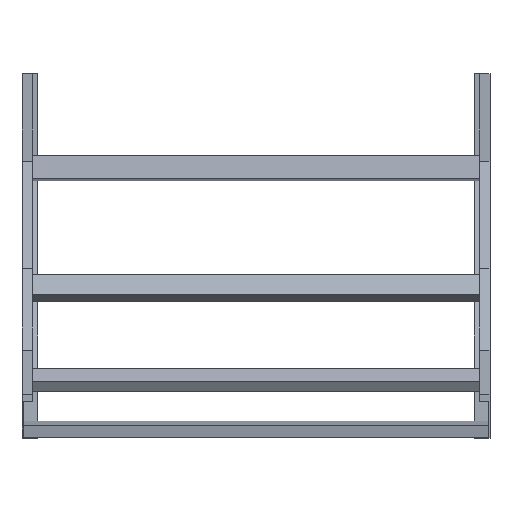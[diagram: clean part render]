
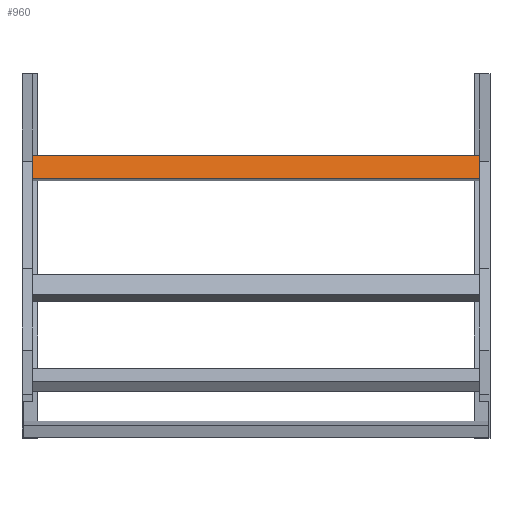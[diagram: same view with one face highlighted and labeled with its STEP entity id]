
A CAD part, top view. The second image highlights one B-rep face of the part: STEP entity #960.
In plain terms, the highlighted planar face has unit normal (0, 0.195, 0.981) as drawn and (0, 1, 0) by its records, which use the part's own axes.
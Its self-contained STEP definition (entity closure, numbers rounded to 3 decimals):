
#108 = CARTESIAN_POINT ( 'NONE',  ( -398., 20., 20.25 ) ) ;
#182 = CARTESIAN_POINT ( 'NONE',  ( 398., 20., -20.25 ) ) ;
#199 = DIRECTION ( 'NONE',  ( 0., 0., 1. ) ) ;
#328 = VECTOR ( 'NONE', #199, 1000. ) ;
#348 = EDGE_CURVE ( 'NONE', #753, #1398, #1622, .T. ) ;
#357 = VECTOR ( 'NONE', #496, 1000. ) ;
#362 = LINE ( 'NONE', #108, #1631 ) ;
#379 = CARTESIAN_POINT ( 'NONE',  ( 398., 20., 20.25 ) ) ;
#458 = CARTESIAN_POINT ( 'NONE',  ( 398., 20., 20.25 ) ) ;
#462 = VERTEX_POINT ( 'NONE', #458 ) ;
#496 = DIRECTION ( 'NONE',  ( -1., 0., 0. ) ) ;
#506 = EDGE_CURVE ( 'NONE', #462, #1467, #1413, .T. ) ;
#534 = FACE_OUTER_BOUND ( 'NONE', #1299, .T. ) ;
#537 = ORIENTED_EDGE ( 'NONE', *, *, #506, .F. ) ;
#544 = DIRECTION ( 'NONE',  ( 0., 0., -1. ) ) ;
#563 = EDGE_CURVE ( 'NONE', #753, #462, #1520, .T. ) ;
#615 = DIRECTION ( 'NONE',  ( -1., 0., 0. ) ) ;
#744 = CARTESIAN_POINT ( 'NONE',  ( -398., 20., -20.25 ) ) ;
#753 = VERTEX_POINT ( 'NONE', #1159 ) ;
#952 = AXIS2_PLACEMENT_3D ( 'NONE', #1580, #1747, #544 ) ;
#960 = ADVANCED_FACE ( 'NONE', ( #534 ), #1157, .F. ) ;
#987 = DIRECTION ( 'NONE',  ( 0., 0., 1. ) ) ;
#1113 = ORIENTED_EDGE ( 'NONE', *, *, #563, .F. ) ;
#1157 = PLANE ( 'NONE',  #952 ) ;
#1159 = CARTESIAN_POINT ( 'NONE',  ( 398., 20., -20.25 ) ) ;
#1174 = VECTOR ( 'NONE', #615, 1000. ) ;
#1184 = ORIENTED_EDGE ( 'NONE', *, *, #348, .T. ) ;
#1299 = EDGE_LOOP ( 'NONE', ( #1625, #537, #1113, #1184 ) ) ;
#1398 = VERTEX_POINT ( 'NONE', #744 ) ;
#1413 = LINE ( 'NONE', #379, #357 ) ;
#1467 = VERTEX_POINT ( 'NONE', #1472 ) ;
#1472 = CARTESIAN_POINT ( 'NONE',  ( -398., 20., 20.25 ) ) ;
#1520 = LINE ( 'NONE', #1837, #328 ) ;
#1580 = CARTESIAN_POINT ( 'NONE',  ( 398., 20., 20.25 ) ) ;
#1622 = LINE ( 'NONE', #182, #1174 ) ;
#1625 = ORIENTED_EDGE ( 'NONE', *, *, #1703, .T. ) ;
#1631 = VECTOR ( 'NONE', #987, 1000. ) ;
#1703 = EDGE_CURVE ( 'NONE', #1398, #1467, #362, .T. ) ;
#1747 = DIRECTION ( 'NONE',  ( 0., -1., 0. ) ) ;
#1837 = CARTESIAN_POINT ( 'NONE',  ( 398., 20., 20.25 ) ) ;
